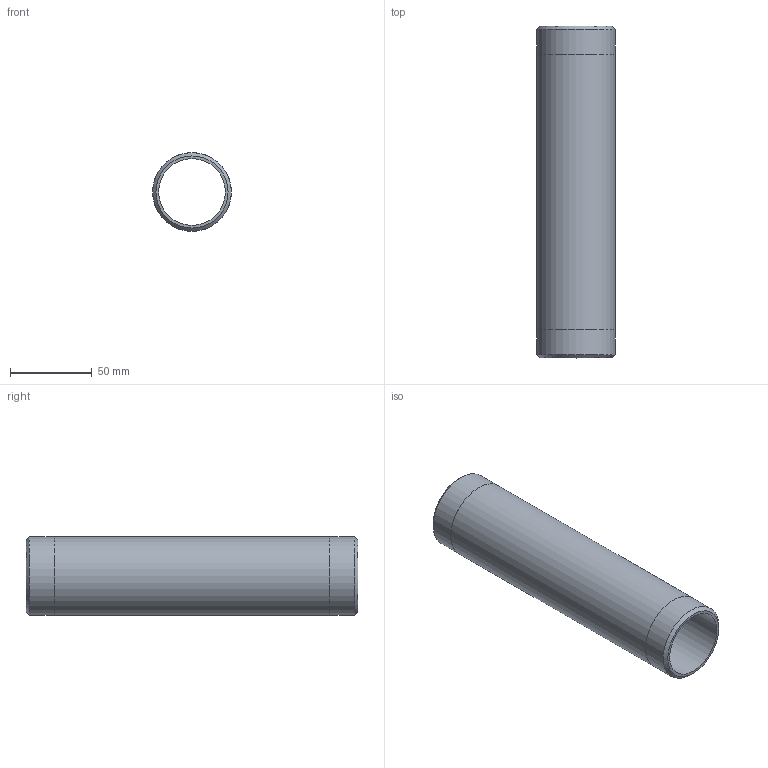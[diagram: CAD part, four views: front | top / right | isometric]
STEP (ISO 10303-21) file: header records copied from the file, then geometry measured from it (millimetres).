
FILE_DESCRIPTION(/* description */ (''),/* implementation_level */ '2;1');
FILE_NAME(/* name */ 'C:/Users/drich/Desktop/BPN1-1_2-8 v1.step',/* time_stamp */ '2020-01-03T14:27:49-06:00',/* author */ (''),/* organization */ (''),/* preprocessor_version */ 'ST-DEVELOPER v18',/* originating_system */ 'Autodesk Translation Framework v8.12.0.6',/* authorisation */ '');
FILE_SCHEMA (('AUTOMOTIVE_DESIGN { 1 0 10303 214 3 1 1 }'));
Length unit declared in the file: inch
Products named in the file (1): BPN1-1_2-8
Bounding box: 48.26 x 203.2 x 48.26 mm (x, y, z)
Volume: 104065.1 mm3; surface area: 57568.1 mm2
Topology: 1 solids, 1 shells, 10 faces, 24 edges, 18 vertices
Faces by surface type: cylinder 4, plane 4, cone 2
Full cylindrical faces by diameter (mm): 40.894 x1, 48.209 x2, 48.26 x1
Entity records: 360 total; most frequent: DIRECTION 64, CARTESIAN_POINT 53, ORIENTED_EDGE 48, AXIS2_PLACEMENT_3D 29, EDGE_CURVE 24, CIRCLE 18, VERTEX_POINT 18, EDGE_LOOP 14
